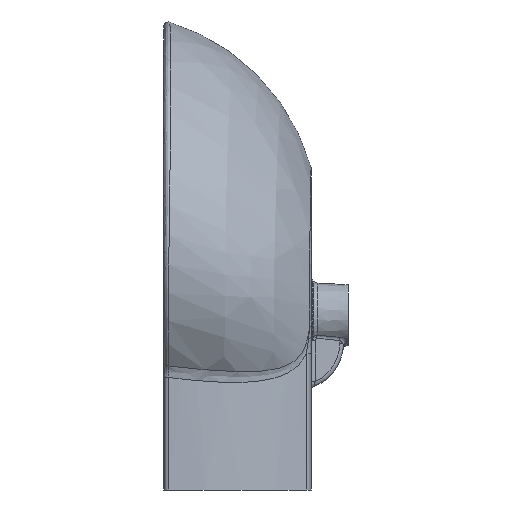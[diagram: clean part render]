
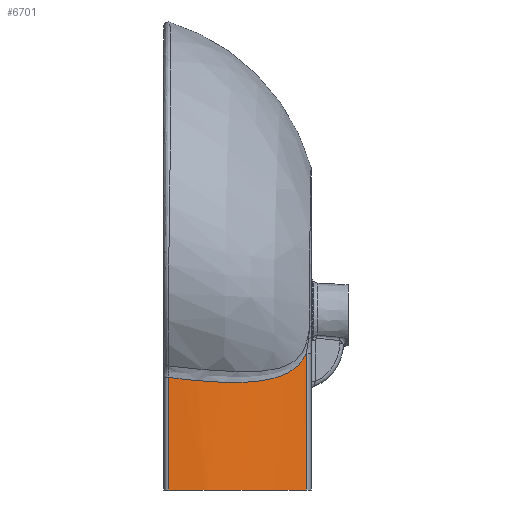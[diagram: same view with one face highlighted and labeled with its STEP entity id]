
A CAD part, left-side view. The second image highlights one B-rep face of the part: STEP entity #6701.
In plain terms, the highlighted cylindrical face has radius 250 mm (diameter 500 mm), a partial arc.
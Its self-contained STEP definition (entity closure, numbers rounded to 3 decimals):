
#353 = CARTESIAN_POINT ( 'NONE',  ( -192.476, -153.061, -45.156 ) ) ;
#372 = CYLINDRICAL_SURFACE ( 'NONE', #4129, 250. ) ;
#383 = CARTESIAN_POINT ( 'NONE',  ( -194.699, -150.349, -49.309 ) ) ;
#447 = CARTESIAN_POINT ( 'NONE',  ( -210.914, -127.777, -65.836 ) ) ;
#483 = CARTESIAN_POINT ( 'NONE',  ( -245.668, -40.754, -71.691 ) ) ;
#490 = DIRECTION ( 'NONE',  ( 1., 0., 0. ) ) ;
#518 = CARTESIAN_POINT ( 'NONE',  ( -246.919, -33.725, -71.059 ) ) ;
#777 = CARTESIAN_POINT ( 'NONE',  ( -192.832, -152.631, -45.874 ) ) ;
#945 = EDGE_LOOP ( 'NONE', ( #4564, #5371, #2372, #6630 ) ) ;
#946 = CARTESIAN_POINT ( 'NONE',  ( -232.552, -85.411, -73.081 ) ) ;
#965 = DIRECTION ( 'NONE',  ( 0., 0., -1. ) ) ;
#994 = CARTESIAN_POINT ( 'NONE',  ( -249.807, -5.236, -67.773 ) ) ;
#1008 = CARTESIAN_POINT ( 'NONE',  ( -202.512, -140.159, -59.378 ) ) ;
#1018 = VECTOR ( 'NONE', #2234, 1000. ) ;
#1042 = CARTESIAN_POINT ( 'NONE',  ( -223.847, -104.967, -71.494 ) ) ;
#1066 = CARTESIAN_POINT ( 'NONE',  ( -249.807, -5.236, -190. ) ) ;
#1078 = CARTESIAN_POINT ( 'NONE',  ( -249.392, -12.38, -68.692 ) ) ;
#1256 = VERTEX_POINT ( 'NONE', #1066 ) ;
#1481 = CARTESIAN_POINT ( 'NONE',  ( -191.125, -154.676, -190. ) ) ;
#1493 = CARTESIAN_POINT ( 'NONE',  ( -198.896, -144.993, -55.304 ) ) ;
#1561 = CARTESIAN_POINT ( 'NONE',  ( -225.406, -101.785, -71.898 ) ) ;
#1574 = AXIS2_PLACEMENT_3D ( 'NONE', #3573, #2584, #490 ) ;
#1599 = CARTESIAN_POINT ( 'NONE',  ( -211.377, -127.048, -66.117 ) ) ;
#1989 = CARTESIAN_POINT ( 'NONE',  ( -199.791, -143.811, -56.375 ) ) ;
#2089 = CARTESIAN_POINT ( 'NONE',  ( -209.982, -129.228, -65.248 ) ) ;
#2121 = VECTOR ( 'NONE', #2623, 1000. ) ;
#2127 = CARTESIAN_POINT ( 'NONE',  ( -213.676, -123.384, -67.463 ) ) ;
#2172 = B_SPLINE_CURVE_WITH_KNOTS ( 'NONE', 3,
 ( #4051, #6175, #5546, #353, #777, #5160, #383, #3141, #3598, #5720, #1493, #1989, #6897, #1008, #6379, #5191, #5221, #6237, #2089, #447, #1599, #2127, #4118, #6799, #3108, #1042, #1561, #2545, #4212, #6340, #946, #4249, #5287, #3694, #3729, #3174, #4154, #483, #518, #5818, #2607, #4729, #3079, #1078, #3628, #2577 ),
 .UNSPECIFIED., .F., .F.,
 ( 4, 2, 2, 2, 2, 2, 2, 2, 2, 2, 2, 2, 2, 2, 2, 2, 2, 2, 2, 2, 2, 2, 4 ),
 ( 0.017, 0.02, 0.023, 0.028, 0.034, 0.036, 0.039, 0.05, 0.056, 0.058, 0.061, 0.072, 0.083, 0.094, 0.105, 0.11, 0.116, 0.127, 0.149, 0.171, 0.176, 0.182, 0.193 ),
 .UNSPECIFIED. ) ;
#2234 = DIRECTION ( 'NONE',  ( 0., 0., 1. ) ) ;
#2372 = ORIENTED_EDGE ( 'NONE', *, *, #5372, .T. ) ;
#2545 = CARTESIAN_POINT ( 'NONE',  ( -228.399, -95.33, -72.536 ) ) ;
#2577 = CARTESIAN_POINT ( 'NONE',  ( -249.807, -5.236, -67.773 ) ) ;
#2584 = DIRECTION ( 'NONE',  ( 0., 0., 1. ) ) ;
#2607 = CARTESIAN_POINT ( 'NONE',  ( -248.327, -23.081, -69.936 ) ) ;
#2623 = DIRECTION ( 'NONE',  ( 0., 0., -1. ) ) ;
#3079 = CARTESIAN_POINT ( 'NONE',  ( -248.908, -17.733, -69.329 ) ) ;
#3083 = VERTEX_POINT ( 'NONE', #1481 ) ;
#3096 = DIRECTION ( 'NONE',  ( -1., 0., 0. ) ) ;
#3108 = CARTESIAN_POINT ( 'NONE',  ( -220.611, -111.237, -70.474 ) ) ;
#3141 = CARTESIAN_POINT ( 'NONE',  ( -196.308, -148.332, -51.843 ) ) ;
#3174 = CARTESIAN_POINT ( 'NONE',  ( -240.718, -61.593, -73.011 ) ) ;
#3477 = EDGE_CURVE ( 'NONE', #3083, #3806, #5434, .T. ) ;
#3573 = CARTESIAN_POINT ( 'NONE',  ( -0.087, 6.584, -190. ) ) ;
#3598 = CARTESIAN_POINT ( 'NONE',  ( -197.147, -147.264, -53.044 ) ) ;
#3628 = CARTESIAN_POINT ( 'NONE',  ( -249.638, -8.81, -68.243 ) ) ;
#3678 = LINE ( 'NONE', #6222, #2121 ) ;
#3694 = CARTESIAN_POINT ( 'NONE',  ( -236.336, -75.267, -73.261 ) ) ;
#3729 = CARTESIAN_POINT ( 'NONE',  ( -237.488, -71.859, -73.235 ) ) ;
#3806 = VERTEX_POINT ( 'NONE', #4178 ) ;
#4051 = CARTESIAN_POINT ( 'NONE',  ( -191.125, -154.676, -42.166 ) ) ;
#4105 = FACE_OUTER_BOUND ( 'NONE', #945, .T. ) ;
#4118 = CARTESIAN_POINT ( 'NONE',  ( -215.465, -120.398, -68.353 ) ) ;
#4129 = AXIS2_PLACEMENT_3D ( 'NONE', #6358, #965, #3096 ) ;
#4154 = CARTESIAN_POINT ( 'NONE',  ( -242.567, -54.688, -72.666 ) ) ;
#4178 = CARTESIAN_POINT ( 'NONE',  ( -191.125, -154.676, -42.166 ) ) ;
#4212 = CARTESIAN_POINT ( 'NONE',  ( -229.832, -92.057, -72.771 ) ) ;
#4249 = CARTESIAN_POINT ( 'NONE',  ( -233.855, -82.049, -73.178 ) ) ;
#4564 = ORIENTED_EDGE ( 'NONE', *, *, #5001, .T. ) ;
#4729 = CARTESIAN_POINT ( 'NONE',  ( -248.727, -19.518, -69.536 ) ) ;
#5001 = EDGE_CURVE ( 'NONE', #1256, #3083, #6601, .T. ) ;
#5160 = CARTESIAN_POINT ( 'NONE',  ( -193.929, -151.298, -47.976 ) ) ;
#5191 = CARTESIAN_POINT ( 'NONE',  ( -207.172, -133.481, -63.3 ) ) ;
#5221 = CARTESIAN_POINT ( 'NONE',  ( -208.109, -132.087, -63.986 ) ) ;
#5287 = CARTESIAN_POINT ( 'NONE',  ( -234.49, -80.355, -73.21 ) ) ;
#5371 = ORIENTED_EDGE ( 'NONE', *, *, #3477, .T. ) ;
#5372 = EDGE_CURVE ( 'NONE', #3806, #6738, #2172, .T. ) ;
#5434 = LINE ( 'NONE', #6447, #1018 ) ;
#5546 = CARTESIAN_POINT ( 'NONE',  ( -191.785, -153.891, -43.685 ) ) ;
#5720 = CARTESIAN_POINT ( 'NONE',  ( -198.452, -145.573, -54.75 ) ) ;
#5818 = CARTESIAN_POINT ( 'NONE',  ( -248.108, -24.859, -70.129 ) ) ;
#6175 = CARTESIAN_POINT ( 'NONE',  ( -191.448, -154.293, -42.931 ) ) ;
#6222 = CARTESIAN_POINT ( 'NONE',  ( -249.807, -5.236, 320.006 ) ) ;
#6237 = CARTESIAN_POINT ( 'NONE',  ( -209.513, -129.949, -64.941 ) ) ;
#6340 = CARTESIAN_POINT ( 'NONE',  ( -231.885, -87.081, -73.017 ) ) ;
#6358 = CARTESIAN_POINT ( 'NONE',  ( -0.087, 6.584, 320.006 ) ) ;
#6379 = CARTESIAN_POINT ( 'NONE',  ( -204.37, -137.566, -61.078 ) ) ;
#6447 = CARTESIAN_POINT ( 'NONE',  ( -191.125, -154.676, 320.006 ) ) ;
#6484 = EDGE_CURVE ( 'NONE', #6738, #1256, #3678, .T. ) ;
#6601 = CIRCLE ( 'NONE', #1574, 250. ) ;
#6630 = ORIENTED_EDGE ( 'NONE', *, *, #6484, .T. ) ;
#6701 = ADVANCED_FACE ( 'NONE', ( #4105 ), #372, .T. ) ;
#6738 = VERTEX_POINT ( 'NONE', #994 ) ;
#6799 = CARTESIAN_POINT ( 'NONE',  ( -218.933, -114.324, -69.858 ) ) ;
#6897 = CARTESIAN_POINT ( 'NONE',  ( -200.242, -143.21, -56.891 ) ) ;
